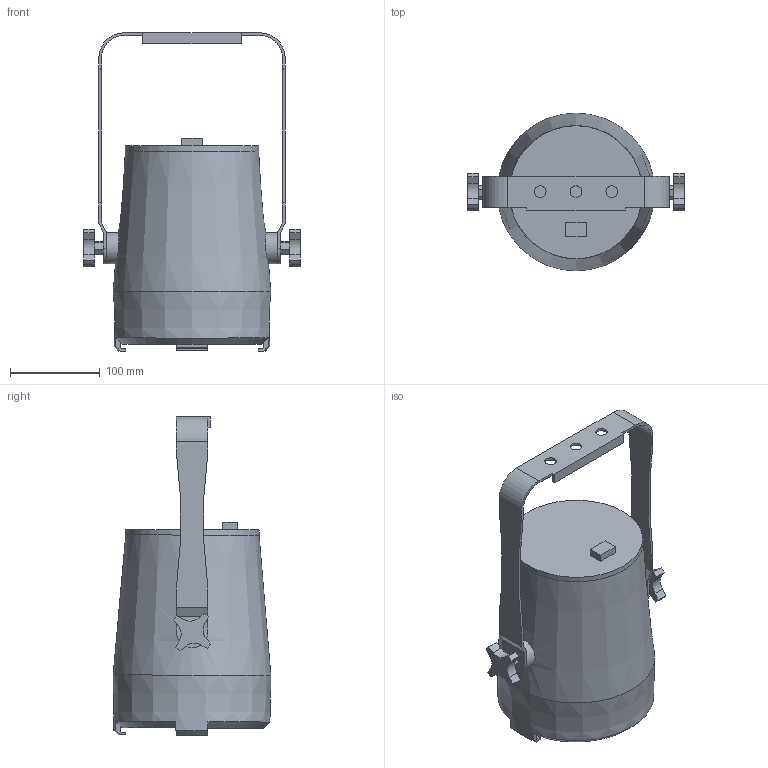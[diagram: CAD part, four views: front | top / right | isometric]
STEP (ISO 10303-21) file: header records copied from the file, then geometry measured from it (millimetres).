
FILE_DESCRIPTION(/* description */ (''),/* implementation_level */ '2;1');
FILE_NAME(/* name */ 'D:/dgooch/Documents/CADENG/PRO/COLORado 1 Solo/0/3D/COLORado 1 Solo_0.step',/* time_stamp */ '2019-09-11T11:04:30-04:00',/* author */ (''),/* organization */ (''),/* preprocessor_version */ 'ST-DEVELOPER v18',/* originating_system */ 'Autodesk Translation Framework v8.6.0.1094',/* authorisation */ '');
FILE_SCHEMA (('AUTOMOTIVE_DESIGN { 1 0 10303 214 3 1 1 }'));
Length unit declared in the file: millimetre
Products named in the file (3): COLORado 1 Solo; Bracket; Main
Assembly tree (2 placements, depth 2):
  COLORado 1 Solo
    Bracket
    Main
Bounding box: 241.96 x 176.17 x 355.55 mm (x, y, z)
Volume: 4831478.5 mm3; surface area: 231875.4 mm2
Topology: 2 solids, 2 shells, 136 faces, 379 edges, 255 vertices
Faces by surface type: plane 89, cylinder 38, cone 9
Full cylindrical faces by diameter (mm): 8 x2, 13 x3, 35 x2, 132 x1
Entity records: 4623 total; most frequent: CARTESIAN_POINT 983, ORIENTED_EDGE 758, DIRECTION 732, EDGE_CURVE 379, VERTEX_POINT 255, LINE 252, VECTOR 252, AXIS2_PLACEMENT_3D 240
